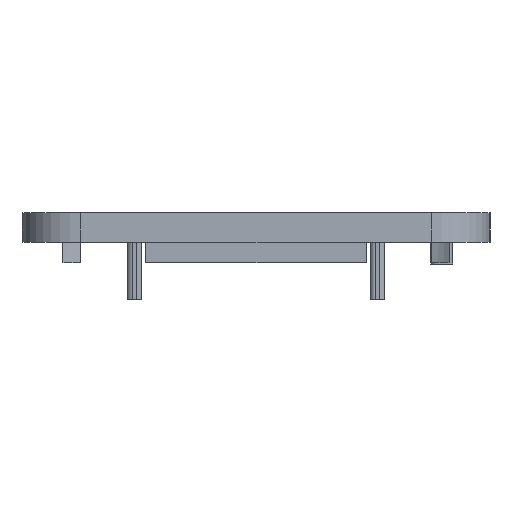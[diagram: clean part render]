
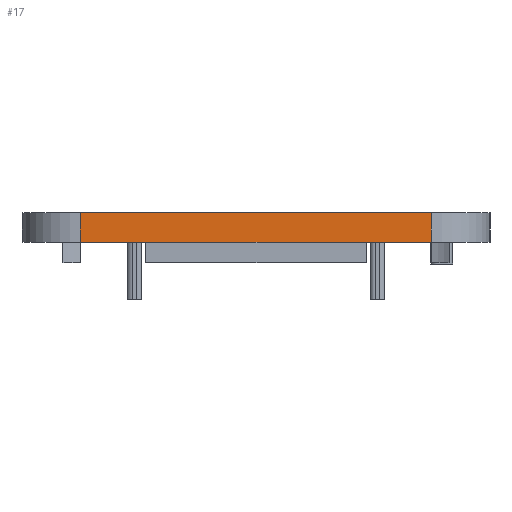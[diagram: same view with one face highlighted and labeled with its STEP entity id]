
A CAD part, left-side view. The second image highlights one B-rep face of the part: STEP entity #17.
In plain terms, the highlighted planar face has unit normal (-1, 0, 0).
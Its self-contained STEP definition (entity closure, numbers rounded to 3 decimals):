
#17 = ADVANCED_FACE('',(#18),#32,.F.);
#18 = FACE_BOUND('',#19,.F.);
#19 = EDGE_LOOP('',(#20,#55,#83,#111));
#20 = ORIENTED_EDGE('',*,*,#21,.F.);
#21 = EDGE_CURVE('',#22,#24,#26,.T.);
#22 = VERTEX_POINT('',#23);
#23 = CARTESIAN_POINT('',(536.,-12.,19.));
#24 = VERTEX_POINT('',#25);
#25 = CARTESIAN_POINT('',(536.,12.,19.));
#26 = SURFACE_CURVE('',#27,(#31,#43),.PCURVE_S1.);
#27 = LINE('',#28,#29);
#28 = CARTESIAN_POINT('',(536.,-16.,19.));
#29 = VECTOR('',#30,1.);
#30 = DIRECTION('',(0.,1.,0.));
#31 = PCURVE('',#32,#37);
#32 = PLANE('',#33);
#33 = AXIS2_PLACEMENT_3D('',#34,#35,#36);
#34 = CARTESIAN_POINT('',(536.,-16.,17.));
#35 = DIRECTION('',(1.,0.,0.));
#36 = DIRECTION('',(0.,0.,1.));
#37 = DEFINITIONAL_REPRESENTATION('',(#38),#42);
#38 = LINE('',#39,#40);
#39 = CARTESIAN_POINT('',(2.,0.));
#40 = VECTOR('',#41,1.);
#41 = DIRECTION('',(0.,-1.));
#42 = ( GEOMETRIC_REPRESENTATION_CONTEXT(2) 
PARAMETRIC_REPRESENTATION_CONTEXT() REPRESENTATION_CONTEXT('2D SPACE',''
  ) );
#43 = PCURVE('',#44,#49);
#44 = PLANE('',#45);
#45 = AXIS2_PLACEMENT_3D('',#46,#47,#48);
#46 = CARTESIAN_POINT('',(536.,-16.,19.));
#47 = DIRECTION('',(0.,0.,1.));
#48 = DIRECTION('',(1.,0.,-0.));
#49 = DEFINITIONAL_REPRESENTATION('',(#50),#54);
#50 = LINE('',#51,#52);
#51 = CARTESIAN_POINT('',(0.,0.));
#52 = VECTOR('',#53,1.);
#53 = DIRECTION('',(0.,1.));
#54 = ( GEOMETRIC_REPRESENTATION_CONTEXT(2) 
PARAMETRIC_REPRESENTATION_CONTEXT() REPRESENTATION_CONTEXT('2D SPACE',''
  ) );
#55 = ORIENTED_EDGE('',*,*,#56,.F.);
#56 = EDGE_CURVE('',#57,#22,#59,.T.);
#57 = VERTEX_POINT('',#58);
#58 = CARTESIAN_POINT('',(536.,-12.,17.));
#59 = SURFACE_CURVE('',#60,(#64,#71),.PCURVE_S1.);
#60 = LINE('',#61,#62);
#61 = CARTESIAN_POINT('',(536.,-12.,17.));
#62 = VECTOR('',#63,1.);
#63 = DIRECTION('',(0.,0.,1.));
#64 = PCURVE('',#32,#65);
#65 = DEFINITIONAL_REPRESENTATION('',(#66),#70);
#66 = LINE('',#67,#68);
#67 = CARTESIAN_POINT('',(0.,-4.));
#68 = VECTOR('',#69,1.);
#69 = DIRECTION('',(1.,0.));
#70 = ( GEOMETRIC_REPRESENTATION_CONTEXT(2) 
PARAMETRIC_REPRESENTATION_CONTEXT() REPRESENTATION_CONTEXT('2D SPACE',''
  ) );
#71 = PCURVE('',#72,#77);
#72 = CYLINDRICAL_SURFACE('',#73,4.);
#73 = AXIS2_PLACEMENT_3D('',#74,#75,#76);
#74 = CARTESIAN_POINT('',(540.,-12.,17.));
#75 = DIRECTION('',(0.,0.,1.));
#76 = DIRECTION('',(-1.,-0.,0.));
#77 = DEFINITIONAL_REPRESENTATION('',(#78),#82);
#78 = LINE('',#79,#80);
#79 = CARTESIAN_POINT('',(0.,0.));
#80 = VECTOR('',#81,1.);
#81 = DIRECTION('',(0.,1.));
#82 = ( GEOMETRIC_REPRESENTATION_CONTEXT(2) 
PARAMETRIC_REPRESENTATION_CONTEXT() REPRESENTATION_CONTEXT('2D SPACE',''
  ) );
#83 = ORIENTED_EDGE('',*,*,#84,.T.);
#84 = EDGE_CURVE('',#57,#85,#87,.T.);
#85 = VERTEX_POINT('',#86);
#86 = CARTESIAN_POINT('',(536.,12.,17.));
#87 = SURFACE_CURVE('',#88,(#92,#99),.PCURVE_S1.);
#88 = LINE('',#89,#90);
#89 = CARTESIAN_POINT('',(536.,-16.,17.));
#90 = VECTOR('',#91,1.);
#91 = DIRECTION('',(0.,1.,0.));
#92 = PCURVE('',#32,#93);
#93 = DEFINITIONAL_REPRESENTATION('',(#94),#98);
#94 = LINE('',#95,#96);
#95 = CARTESIAN_POINT('',(0.,0.));
#96 = VECTOR('',#97,1.);
#97 = DIRECTION('',(0.,-1.));
#98 = ( GEOMETRIC_REPRESENTATION_CONTEXT(2) 
PARAMETRIC_REPRESENTATION_CONTEXT() REPRESENTATION_CONTEXT('2D SPACE',''
  ) );
#99 = PCURVE('',#100,#105);
#100 = PLANE('',#101);
#101 = AXIS2_PLACEMENT_3D('',#102,#103,#104);
#102 = CARTESIAN_POINT('',(536.,-16.,17.));
#103 = DIRECTION('',(0.,0.,1.));
#104 = DIRECTION('',(1.,0.,0.));
#105 = DEFINITIONAL_REPRESENTATION('',(#106),#110);
#106 = LINE('',#107,#108);
#107 = CARTESIAN_POINT('',(0.,0.));
#108 = VECTOR('',#109,1.);
#109 = DIRECTION('',(0.,1.));
#110 = ( GEOMETRIC_REPRESENTATION_CONTEXT(2) 
PARAMETRIC_REPRESENTATION_CONTEXT() REPRESENTATION_CONTEXT('2D SPACE',''
  ) );
#111 = ORIENTED_EDGE('',*,*,#112,.T.);
#112 = EDGE_CURVE('',#85,#24,#113,.T.);
#113 = SURFACE_CURVE('',#114,(#118,#125),.PCURVE_S1.);
#114 = LINE('',#115,#116);
#115 = CARTESIAN_POINT('',(536.,12.,17.));
#116 = VECTOR('',#117,1.);
#117 = DIRECTION('',(0.,0.,1.));
#118 = PCURVE('',#32,#119);
#119 = DEFINITIONAL_REPRESENTATION('',(#120),#124);
#120 = LINE('',#121,#122);
#121 = CARTESIAN_POINT('',(0.,-28.));
#122 = VECTOR('',#123,1.);
#123 = DIRECTION('',(1.,0.));
#124 = ( GEOMETRIC_REPRESENTATION_CONTEXT(2) 
PARAMETRIC_REPRESENTATION_CONTEXT() REPRESENTATION_CONTEXT('2D SPACE',''
  ) );
#125 = PCURVE('',#126,#131);
#126 = CYLINDRICAL_SURFACE('',#127,4.);
#127 = AXIS2_PLACEMENT_3D('',#128,#129,#130);
#128 = CARTESIAN_POINT('',(540.,12.,17.));
#129 = DIRECTION('',(0.,0.,1.));
#130 = DIRECTION('',(-1.,-0.,0.));
#131 = DEFINITIONAL_REPRESENTATION('',(#132),#136);
#132 = LINE('',#133,#134);
#133 = CARTESIAN_POINT('',(-0.,0.));
#134 = VECTOR('',#135,1.);
#135 = DIRECTION('',(-0.,1.));
#136 = ( GEOMETRIC_REPRESENTATION_CONTEXT(2) 
PARAMETRIC_REPRESENTATION_CONTEXT() REPRESENTATION_CONTEXT('2D SPACE',''
  ) );
